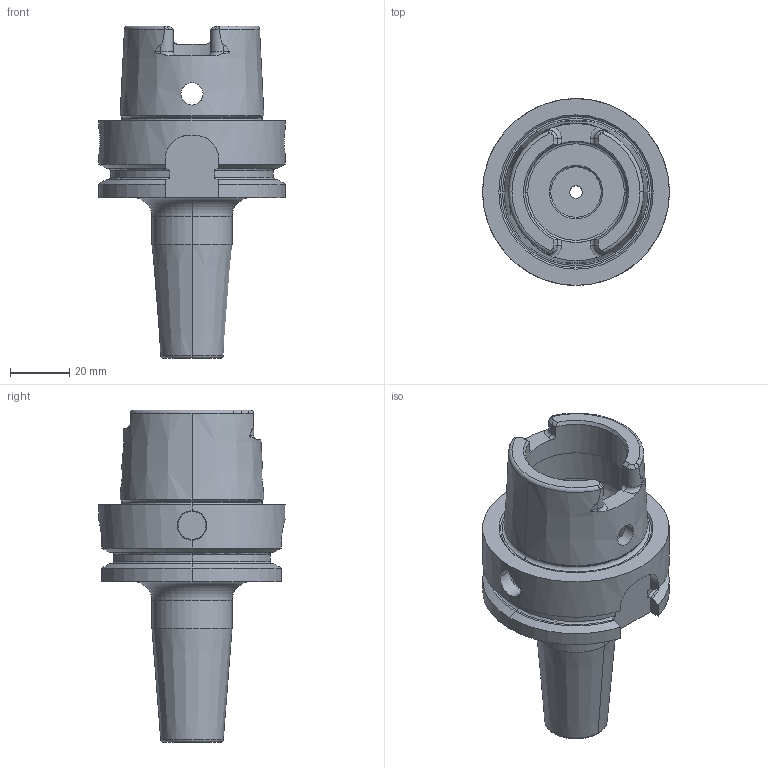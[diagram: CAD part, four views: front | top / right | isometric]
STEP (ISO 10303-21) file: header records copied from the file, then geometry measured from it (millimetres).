
FILE_DESCRIPTION (( 'STEP AP214' ), '1' );
FILE_NAME ('RHSK63ASF0250315.STEP', '2019-02-28T20:03:05', ( '' ), ( '' ), 'SwSTEP 2.0', 'SolidWorks 2019', '' );
FILE_SCHEMA (( 'AUTOMOTIVE_DESIGN' ));
Length unit declared in the file: inch
Products named in the file (2): RHSK63ASF0250315
Bounding box: 62.94 x 62.94 x 111.9 mm (x, y, z)
Volume: 106152.4 mm3; surface area: 27447.5 mm2
Topology: 1 solids, 1 shells, 167 faces, 420 edges, 258 vertices
Faces by surface type: cylinder 52, plane 49, cone 37, torus 29
Entity records: 7977 total; most frequent: CARTESIAN_POINT 1787, DIRECTION 847, ORIENTED_EDGE 840, EDGE_CURVE 420, AXIS2_PLACEMENT_3D 346, VERTEX_POINT 258, CIRCLE 177, EDGE_LOOP 176
